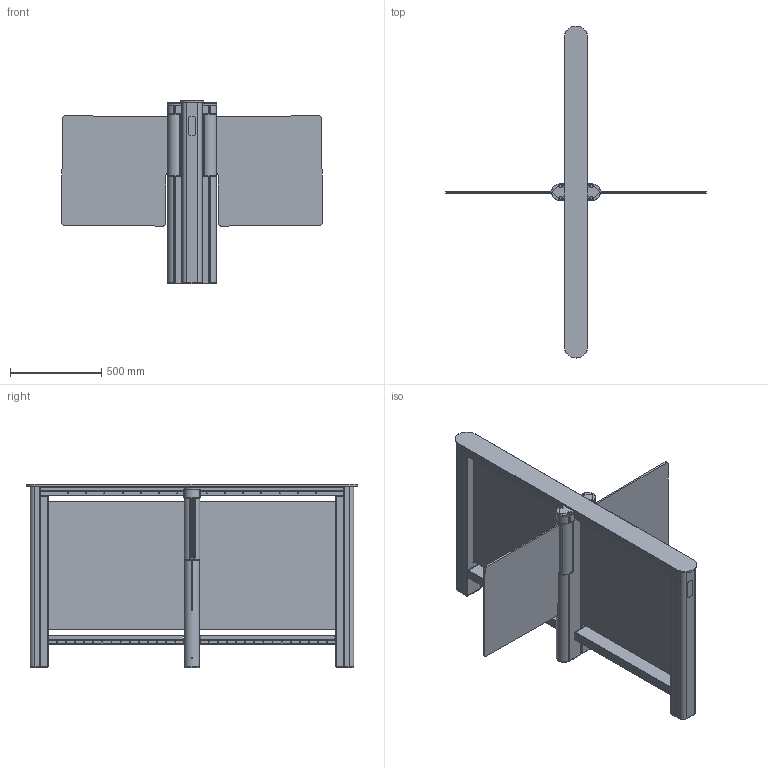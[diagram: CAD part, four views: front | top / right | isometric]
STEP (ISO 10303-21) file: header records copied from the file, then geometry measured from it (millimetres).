
FILE_DESCRIPTION(/* description */ ('Unknown'),/* implementation_level */ '2;1');
FILE_NAME(/* name */ 'ST-01_D_1000',/* time_stamp */ '2021-12-23T13:31:18+03:00',/* author */ ('Unknown'),/* organization */ ('Unknown'),/* preprocessor_version */ 'ST-DEVELOPER v18.1',/* originating_system */ 'Solid Edge',/* authorisation */ 'Unknown');
FILE_SCHEMA (('CONFIG_CONTROL_DESIGN'));
Products named in the file (160): ST-01_D; ST-01.1.006.00 砎魤鍱_oa_0; ST-01.1.002.00 栺鍣罻_oa_1; ST-01.1.002.02 砑僔蠂縺; ST-01.1.005.08 扻豵鵨; ST-01.1.031.00 沓劌錪 瀔魤鍱趌oa_2; ST-01.1.036.00 昜闉趌oa_3; BG65x25+PLG52+mufta_oa_4; ST-01.045.00ﾑﾁ ﾊ濱oa_5; ST-01.046.00 ﾊ濱oa_6; ST-01.046.09 Êîæóõ-Ïî óìîë÷àíèþ; ST-01.047.00 扰鍙欙樥燲oa_7; ST-01.047.04 Êðîíøòåéí-Ïî óìîë÷àíèþ; ST-01.760.00 Ïëàòà ýëåêòðîïðèâîäà_oa_8; ST-01.920.00 Êàáåëü ñîåäèíåíèÿ CAN; ST-01.1.004.00捘 昜闉趌oa_9; ST-01.1.004.06 Îïîðà; ST-01.008.00 ﾊ濱oa_10; ST-01.008.05 Êîæóõ; ST-01.008.00 ﾊ濱oa_11; ST-01.900.00 Êàáåëü ñîåäèíåíèÿ  DC; Äæàìïåð MJ-0_13; 淟檍瀖睯貗; ST-01.1.006.00 砎魤鍱_oa_12; ST-01.1.002.00 栺鍣罻_oa_13; ST-01.1.031.00 沓劌錪 瀔魤鍱趌oa_14; ST-01.1.036.00 昜闉趌oa_15; BG65x25+PLG52+mufta_oa_16; ST-01.045.00ﾑﾁ ﾊ濱oa_17; ST-01.046.00 ﾊ濱oa_18; ST-01.047.00 扰鍙欙樥燲oa_19; ST-01.760.00 Ïëàòà ýëåêòðîïðèâîäà_oa_20; ST-01.771.00 Ïëàòà óïðàâëåíèÿ_oa_21; Ïëîùàäêà ñàìîêëåþùàÿñÿ-c õîìóòîì; ST-01.922.00 忺摎錪 嚦鍣膱 CAN 椿; ST-01.1.004.00捘 昜闉趌oa_22; ST-01.008.00 ﾊ濱oa_23; ST-01.008.00 ﾊ濱oa_24; ST-01.921.00 忺摎錪 CAN 椿; RTD-03.715.00 Ïåðåìû÷êà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
Assembly tree (222 placements, depth 5):
  ST-01_D
    ST-01.1.006.00 砎魤鍱_oa_0
      ST-01.1.002.00 栺鍣罻_oa_1
        ST-01.1.002.02 砑僔蠂縺
      ST-01.1.005.08 扻豵鵨
      ST-01.1.031.00 沓劌錪 瀔魤鍱趌oa_2
        ST-01.1.036.00 昜闉趌oa_3
        BG65x25+PLG52+mufta_oa_4
      ST-01.045.00ﾑﾁ ﾊ濱oa_5
        ST-01.046.00 ﾊ濱oa_6
          ST-01.046.09 Êîæóõ-Ïî óìîë÷àíèþ
        ST-01.047.00 扰鍙欙樥燲oa_7
          ST-01.047.04 Êðîíøòåéí-Ïî óìîë÷àíèþ
      ST-01.760.00 Ïëàòà ýëåêòðîïðèâîäà_oa_8
      ST-01.920.00 Êàáåëü ñîåäèíåíèÿ CAN
      ST-01.1.004.00捘 昜闉趌oa_9
        ST-01.1.004.06 Îïîðà
      ST-01.008.00 ﾊ濱oa_10
        ST-01.008.05 Êîæóõ
      ST-01.008.00 ﾊ濱oa_11
        ST-01.008.05 Êîæóõ
      ST-01.900.00 Êàáåëü ñîåäèíåíèÿ  DC
      Äæàìïåð MJ-0_13
      淟檍瀖睯貗  x3
    ST-01.1.006.00 砎魤鍱_oa_12
      ST-01.1.002.00 栺鍣罻_oa_13
        ST-01.1.002.02 砑僔蠂縺
      ST-01.1.005.08 扻豵鵨
      ST-01.1.031.00 沓劌錪 瀔魤鍱趌oa_14
        ST-01.1.036.00 昜闉趌oa_15
        BG65x25+PLG52+mufta_oa_16
      ST-01.045.00ﾑﾁ ﾊ濱oa_17
        ST-01.046.00 ﾊ濱oa_18
          ST-01.046.09 Êîæóõ-Ïî óìîë÷àíèþ
        ST-01.047.00 扰鍙欙樥燲oa_19
          ST-01.047.04 Êðîíøòåéí-Ïî óìîë÷àíèþ
      ST-01.760.00 Ïëàòà ýëåêòðîïðèâîäà_oa_20
      ST-01.771.00 Ïëàòà óïðàâëåíèÿ_oa_21
      Ïëîùàäêà ñàìîêëåþùàÿñÿ-c õîìóòîì
      ST-01.922.00 忺摎錪 嚦鍣膱 CAN 椿
      ST-01.1.004.00捘 昜闉趌oa_22
        ST-01.1.004.06 Îïîðà
      ST-01.008.00 ﾊ濱oa_23
        ST-01.008.05 Êîæóõ
      ST-01.008.00 ﾊ濱oa_24
        ST-01.008.05 Êîæóõ
      ST-01.921.00 忺摎錪 CAN 椿
      淟檍瀖睯貗  x3
      RTD-03.715.00 Ïåðåìû÷êà
      ST-01.923.00 忺摎錪 嚦鍣膱 CAN
      ST-01.905.00 忺摎錪 DC 椿
    ST-01.1.010.00ﾑﾁ ﾊ濱oa_25
      ST-01.740.00 Ïëàòà èíäèêàòîðíîé ñòîéêè_oa_26
      ST-01.1.010.10 Ñòåêëî-Ïî óìîë÷àíèþ
      ST-01.1.011.00 ﾊ濱oa_27
        ST-01.1.011.05 署赅
      ST-01.1.009.00捘 扻豵鵨_oa_28
        ST-01.009.25 Êîæóõ
        ST-01.1.009.07 扻豵鵨
    ST-01.013.00 扻豂塺oa_29
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Bounding box: 1430.36 x 1820 x 1004.7 mm (x, y, z)
Volume: 23489495.3 mm3; surface area: 10925426.4 mm2
Topology: 64 solids, 64 shells, 3553 faces, 9335 edges, 5888 vertices
Faces by surface type: plane 2518, cylinder 831, bspline 164, cone 32, torus 8
Full cylindrical faces by diameter (mm): 3.3 x44, 3.5 x12, 4 x13, 4.2 x5, 5 x104, 5.5 x8, 6 x10, 7 x18, 8 x1, 9 x1, 10 x6, 11 x18, 12 x16, 13.5 x4, 16 x4, 82.099 x1, 87 x2
Entity records: 77160 total; most frequent: CARTESIAN_POINT 17683, ORIENTED_EDGE 11566, DIRECTION 11183, EDGE_CURVE 5783, LINE 4401, VECTOR 4401, VERTEX_POINT 3782, AXIS2_PLACEMENT_3D 3391
